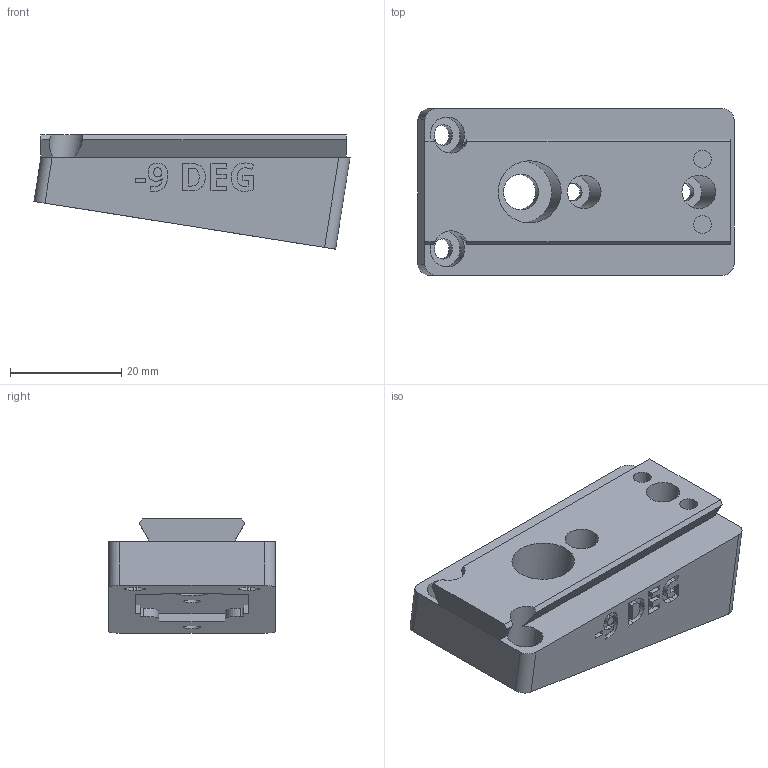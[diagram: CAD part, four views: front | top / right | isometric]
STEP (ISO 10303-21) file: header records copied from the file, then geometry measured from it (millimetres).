
FILE_DESCRIPTION(/* description */ ('STEP AP242 Edition 2','CAx-IF Rec.Pracs.---Representation and Presentation of Product Manufacturing Information (PMI)---4.0---2014-10-13','CAx-IF Rec.Pracs.---3D Tessellated Geometry---0.4---2014-09-14','2;1','CAx-IF Rec.Pracs.---User Defined Attributes---1.5---2016-08-15'),/* implementation_level */ '2;1');
FILE_NAME(/* name */ 'Camera Wedges - CAMERA MOUNTING WEDGE, NEG, -9 DEG',/* time_stamp */ '2026-08-11T00:11:33Z',/* author */ (''),/* organization */ (''),/* preprocessor_version */ 'ST-DEVELOPER v20',/* originating_system */ 'ONSHAPE BY PTC INC, 1.219',/* authorisation */ ' ');
FILE_SCHEMA (('AP242_MANAGED_MODEL_BASED_3D_ENGINEERING_MIM_LF { 1 0 10303 442 3 1 4 }'));
Length unit declared in the file: metre
Products named in the file (1): CAMERA MOUNTING WEDGE, NEG, -9 DEG
Bounding box: 56.94 x 30 x 20.59 mm (x, y, z)
Volume: 20822.2 mm3; surface area: 7766.9 mm2
Topology: 1 solids, 1 shells, 237 faces, 643 edges, 428 vertices
Faces by surface type: plane 125, bspline 70, cylinder 42
Full cylindrical faces by diameter (mm): 3.2 x4, 6 x2, 6.4 x1, 11.2 x1
Entity records: 7679 total; most frequent: CARTESIAN_POINT 2071, ORIENTED_EDGE 1270, DIRECTION 927, EDGE_CURVE 635, VERTEX_POINT 428, LINE 399, VECTOR 399, EDGE_LOOP 275
